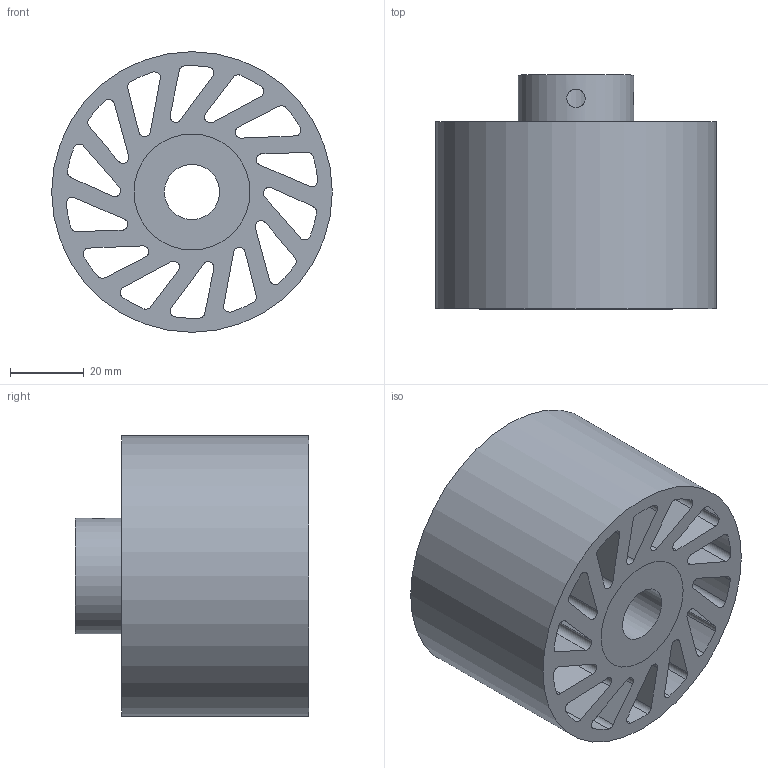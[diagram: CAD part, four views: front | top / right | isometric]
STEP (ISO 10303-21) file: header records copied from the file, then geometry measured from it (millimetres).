
FILE_DESCRIPTION(/* description */ (''),/* implementation_level */ '2;1');
FILE_NAME(/* name */ 'NCWM-700-XXX-YYY.stp',/* time_stamp */ '2023-02-02T16:19:05-06:00',/* author */ ('AG'),/* organization */ ('Meridian Laboratory'),/* preprocessor_version */ 'ST-DEVELOPER v18.1',/* originating_system */ 'Autodesk Inventor 2022',/* authorisation */ '');
FILE_SCHEMA (('AUTOMOTIVE_DESIGN { 1 0 10303 214 3 1 1 }'));
Length unit declared in the file: millimetre
Products named in the file (1): NCWM-640
Bounding box: 76.2 x 63.5 x 76.2 mm (x, y, z)
Volume: 159306 mm3; surface area: 63386.2 mm2
Topology: 2 solids, 2 shells, 94 faces, 274 edges, 184 vertices
Faces by surface type: cylinder 62, plane 32
Full cylindrical faces by diameter (mm): 5 x2, 15.025 x1, 31.496 x2, 76.2 x1
Entity records: 3510 total; most frequent: CARTESIAN_POINT 689, DIRECTION 576, ORIENTED_EDGE 548, EDGE_CURVE 274, AXIS2_PLACEMENT_3D 215, VERTEX_POINT 184, LINE 146, VECTOR 146
